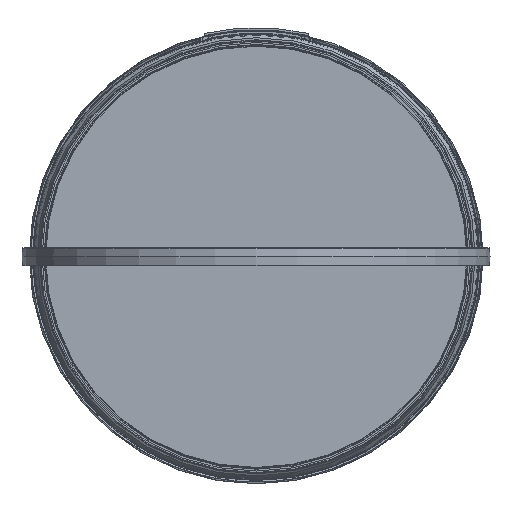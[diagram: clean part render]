
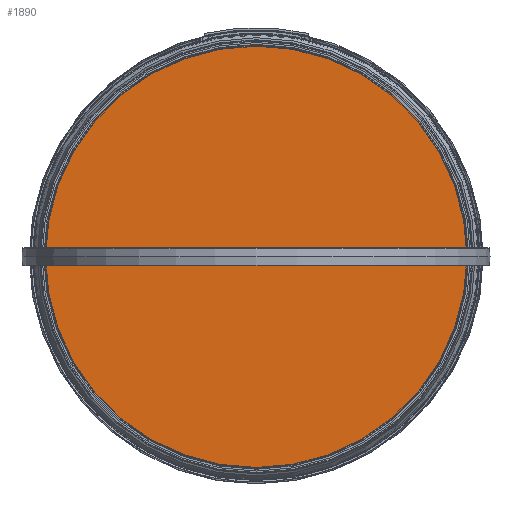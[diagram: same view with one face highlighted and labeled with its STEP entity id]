
A CAD part, left-side view. The second image highlights one B-rep face of the part: STEP entity #1890.
In plain terms, the highlighted planar face has unit normal (-1, 0, 0) as drawn and (1, 0, 0) by its records, which use the part's own axes.
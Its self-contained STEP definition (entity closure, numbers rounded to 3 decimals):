
#1890=ADVANCED_FACE('',(#12808,#12810),#12812,.T.);
#12808=FACE_BOUND('',#12809,.T.);
#12809=EDGE_LOOP('',(#26343));
#12810=FACE_BOUND('',#12811,.T.);
#12811=EDGE_LOOP('',(#26344));
#12812=PLANE('',#12813);
#12813=AXIS2_PLACEMENT_3D('',#12814,#12815,#12816);
#12814=CARTESIAN_POINT('',(0.,0.,0.));
#12815=DIRECTION('',(1.,0.,0.));
#12816=DIRECTION('',(0.,1.,0.));
#26343=ORIENTED_EDGE('',*,*,#34710,.T.);
#26344=ORIENTED_EDGE('',*,*,#34711,.F.);
#34710=EDGE_CURVE('',#42994,#42994,#42995,.T.);
#34711=EDGE_CURVE('',#42996,#42996,#42997,.T.);
#42994=VERTEX_POINT('',#72491);
#42995=CIRCLE('',#72492,105.522);
#42996=VERTEX_POINT('',#72496);
#42997=CIRCLE('',#72497,105.522);
#72491=CARTESIAN_POINT('',(0.,105.522,0.));
#72492=AXIS2_PLACEMENT_3D('',#72493,#72494,#72495);
#72493=CARTESIAN_POINT('',(0.,0.,0.));
#72494=DIRECTION('',(1.,0.,0.));
#72495=DIRECTION('',(0.,1.,0.));
#72496=CARTESIAN_POINT('',(0.,105.522,0.));
#72497=AXIS2_PLACEMENT_3D('',#72498,#72499,#72500);
#72498=CARTESIAN_POINT('',(0.,0.,0.));
#72499=DIRECTION('',(1.,0.,0.));
#72500=DIRECTION('',(0.,1.,0.));
